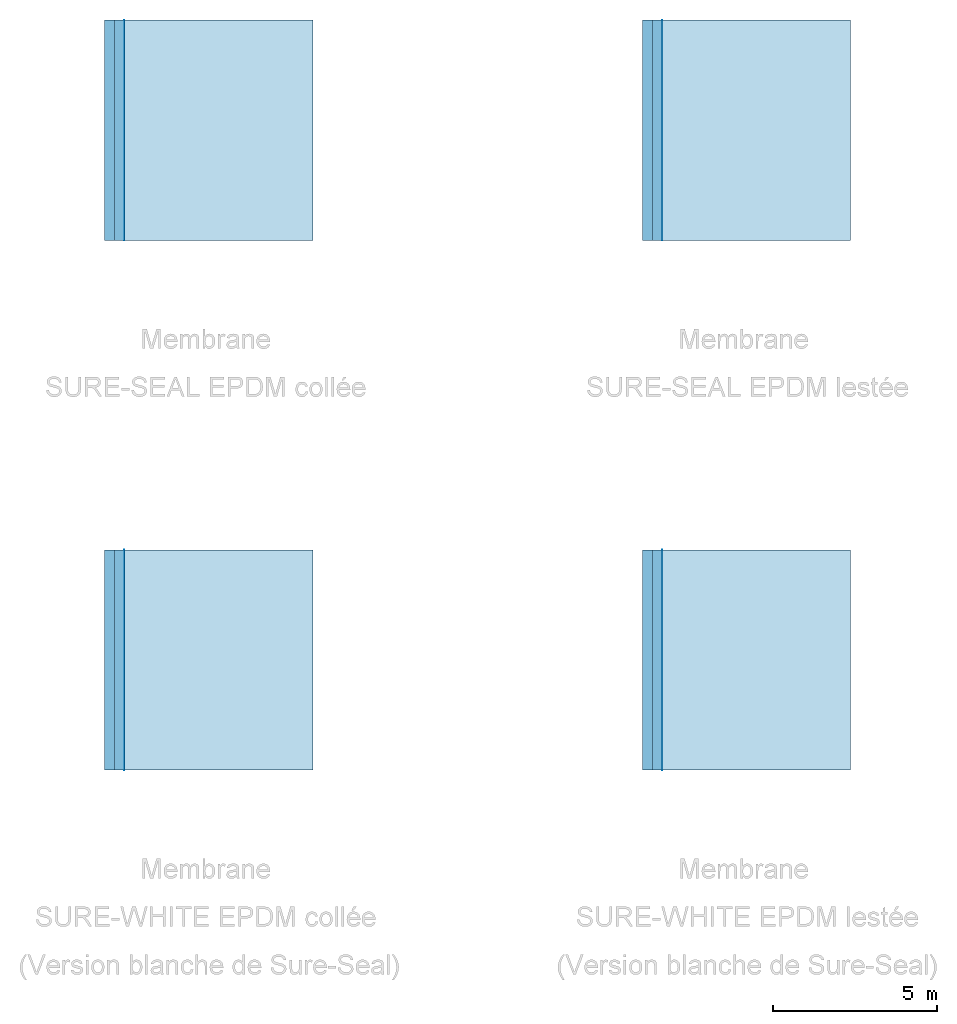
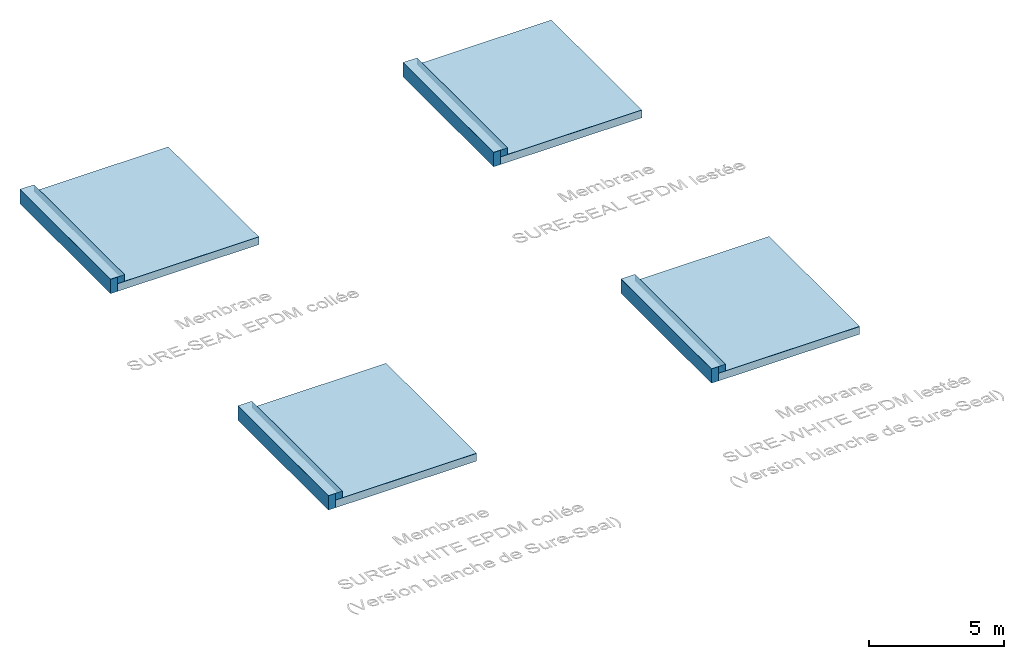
# One storey, incomplete: 12 slabs, 12 walls, 12 elements without a shape of their own.
"""IFC2X3 building model written with IfcOpenShell, lengths in millimetres."""

import ifcopenshell
import ifcopenshell.guid

model = None  # the IFC model being written
_history = None  # IfcOwnerHistory: only IFC2X3 demands one
_inside = {}  # id of a spatial element -> (the spatial element, [elements in it])
_under = {}  # id of a project, library or spatial element -> (it, [spatial elements below it])
_declared = {}  # id of a project -> (the project, [libraries it declares])
_typed = {}  # id of a type object -> (the type object, [elements of that type])
_made_of = {}  # id of a material, layer set ... -> (it, [elements and type objects made of it])


def new_model(schema):
    """Start an empty IFC model of exactly this schema.

    Asked for "IFC4X3", IfcOpenShell would pick the latest addendum, in which some entities
    have other attributes; the version numbers below select the first issue.
    IFC2X3 requires an IfcOwnerHistory on every rooted entity: one is made here for all.
    """
    global model, _history
    if schema == "IFC4X3":
        model = ifcopenshell.file(schema_version=(4, 3, 0, 0))
    else:
        model = ifcopenshell.file(schema=schema)
    _inside.clear()
    _under.clear()
    _declared.clear()
    _typed.clear()
    _made_of.clear()
    _history = None
    if model.schema == "IFC2X3":
        org = make("IfcOrganization", Name="unknown")
        user = make(
            "IfcPersonAndOrganization",
            ThePerson=make("IfcPerson", FamilyName="unknown"),
            TheOrganization=org,
        )
        app = make(
            "IfcApplication",
            ApplicationDeveloper=org,
            Version="unknown",
            ApplicationFullName="unknown",
            ApplicationIdentifier="unknown",
        )
        _history = make(
            "IfcOwnerHistory",
            OwningUser=user,
            OwningApplication=app,
            ChangeAction="ADDED",
            CreationDate=0,
        )
    return model


def make(cls, **values):
    """One entity of the class cls with the attributes given. An attribute that is None is left unset."""
    return model.create_entity(
        cls, **{name: value for name, value in values.items() if value is not None}
    )


def entity(cls, *values):
    """Any entity or typed value of the class cls, its attributes in the order of the schema. None: left unset."""
    e = model.create_entity(cls)
    for i, value in enumerate(values):
        if value is not None:
            e[i] = value
    return e


def rooted(cls, **values):
    """An entity with a GlobalId (a new one), such as an element, a storey or a relation."""
    return make(cls, GlobalId=ifcopenshell.guid.new(), OwnerHistory=_history, **values)


def si_unit(unit_type, name, prefix=None):
    """IfcSIUnit, for example si_unit("LENGTHUNIT", "METRE", prefix="MILLI")."""
    return make("IfcSIUnit", UnitType=unit_type, Prefix=prefix, Name=name)


def converted_unit(unit_type, name, factor, base, dimensions=None, offset=None):
    """IfcConversionBasedUnit, such as the inch: factor (a typed value) times the base unit."""
    return make(
        "IfcConversionBasedUnit"
        if offset is None
        else "IfcConversionBasedUnitWithOffset",
        ConversionOffset=offset,
        Dimensions=None
        if dimensions is None
        else entity("IfcDimensionalExponents", *dimensions),
        UnitType=unit_type,
        Name=name,
        ConversionFactor=make(
            "IfcMeasureWithUnit", ValueComponent=factor, UnitComponent=base
        ),
    )


def assignment(units):
    """IfcUnitAssignment: the units of a project."""
    return None if units is None else make("IfcUnitAssignment", Units=units)


def point(xyz):
    """IfcCartesianPoint."""
    return None if xyz is None else make("IfcCartesianPoint", Coordinates=xyz)


def direction(xyz):
    """IfcDirection."""
    return None if xyz is None else make("IfcDirection", DirectionRatios=xyz)


def frame(location, z_axis=None, x_axis=None):
    """IfcAxis2Placement3D, a coordinate frame: its origin and axes. An axis left out is left unset."""
    return make(
        "IfcAxis2Placement3D",
        Location=point(location),
        Axis=direction(z_axis),
        RefDirection=direction(x_axis),
    )


def frame_2d(location, x_axis=None):
    """IfcAxis2Placement2D, a coordinate frame in the plane: its origin and x axis."""
    return make(
        "IfcAxis2Placement2D", Location=point(location), RefDirection=direction(x_axis)
    )


def origin():
    """The frame at (0, 0, 0) with its axes left unset."""
    return frame((0.0, 0.0, 0.0))


def origin_2d_with_axis():
    """The frame at (0, 0) in the plane with the x axis (1, 0) written out."""
    return frame_2d((0.0, 0.0), x_axis=(1.0, 0.0))


def place(relative_to, where):
    """IfcLocalPlacement: puts the frame where relative to a parent placement (None: the world)."""
    return make(
        "IfcLocalPlacement", PlacementRelTo=relative_to, RelativePlacement=where
    )


def context(
    kind, dimensions, precision=None, world=None, true_north=None, identifier=None
):
    """IfcGeometricRepresentationContext, for example the 3D "Model" context."""
    return make(
        "IfcGeometricRepresentationContext",
        ContextIdentifier=identifier,
        ContextType=kind,
        CoordinateSpaceDimension=dimensions,
        Precision=precision,
        WorldCoordinateSystem=world,
        TrueNorth=true_north,
    )


def subcontext(parent, identifier, kind, view, scale=None):
    """IfcGeometricRepresentationSubContext, for example "Body" below "Model"."""
    return make(
        "IfcGeometricRepresentationSubContext",
        ContextIdentifier=identifier,
        ContextType=kind,
        ParentContext=parent,
        TargetScale=scale,
        TargetView=view,
    )


def project(units=None, contexts=None):
    """IfcProject with its units and contexts."""
    return rooted(
        "IfcProject",
        Name="project",
        RepresentationContexts=contexts,
        UnitsInContext=assignment(units),
    )


def spatial(cls, under=None, at=None, **own):
    """A site, building, storey or space (cls), placed at a placement, below another one or the project."""
    s = rooted(cls, ObjectPlacement=at, **own)
    if under is not None:
        _under.setdefault(under.id(), (under, []))[1].append(s)
    return s


def profile(cls, at=None, kind="AREA", **sizes):
    """A parametric profile (cls). Its sizes go by their IFC names, for example OverallWidth=200.0."""
    return make(cls, ProfileType=kind, Position=at, **sizes)


def rectangle(**sizes):
    """IfcRectangleProfileDef."""
    return profile("IfcRectangleProfileDef", **sizes)


def extrude(swept, where, along, depth):
    """IfcExtrudedAreaSolid: the profile swept, set in the frame where, extruded along a direction by depth."""
    return make(
        "IfcExtrudedAreaSolid",
        SweptArea=swept,
        Position=where,
        ExtrudedDirection=direction(along),
        Depth=depth,
    )


def clip(a, b, op="DIFFERENCE"):
    """IfcBooleanClippingResult: the solid a cut by the half space b."""
    return make(
        "IfcBooleanClippingResult", Operator=op, FirstOperand=a, SecondOperand=b
    )


def halfspace(plane, agree):
    """IfcHalfSpaceSolid: all space on one side of the plane z = 0 of the frame plane."""
    return make(
        "IfcHalfSpaceSolid",
        BaseSurface=make("IfcPlane", Position=plane),
        AgreementFlag=agree,
    )


def shape(context_of_items, identifier, shape_type, items):
    """IfcShapeRepresentation: the items that make up one representation, for example the "Body"."""
    return make(
        "IfcShapeRepresentation",
        ContextOfItems=context_of_items,
        RepresentationIdentifier=identifier,
        RepresentationType=shape_type,
        Items=items,
    )


def material(Name=None, Category=None):
    """IfcMaterial."""
    return make("IfcMaterial", Name=Name, Category=Category)


def layer(
    of_material, thickness, ventilated=None, Name=None, Category=None, Priority=None
):
    """IfcMaterialLayer: one layer of a wall or slab, of a material (None: an air gap)."""
    return make(
        "IfcMaterialLayer",
        Material=of_material,
        LayerThickness=thickness,
        IsVentilated=ventilated,
        Name=Name,
        Category=Category,
        Priority=Priority,
    )


def layer_set(layers, Name=None):
    """IfcMaterialLayerSet."""
    return make("IfcMaterialLayerSet", MaterialLayers=layers, LayerSetName=Name)


def layer_usage(for_layer_set, set_direction, sense, offset, extent=None):
    """IfcMaterialLayerSetUsage: how a layer set lies in its element."""
    return make(
        "IfcMaterialLayerSetUsage",
        ForLayerSet=for_layer_set,
        LayerSetDirection=set_direction,
        DirectionSense=sense,
        OffsetFromReferenceLine=offset,
        ReferenceExtent=extent,
    )


def made_of(thing, what):
    """Note that an element or type object is made of a material, layer set ...; save() writes the relation."""
    if what is not None:
        _made_of.setdefault(what.id(), (what, []))[1].append(thing)
    return thing


def type_object(cls, material=None, **own):
    """A type object (cls), such as IfcWallType, which elements share."""
    return made_of(rooted(cls, **own), material)


def element(
    cls,
    number,
    at=None,
    inside=None,
    cuts=None,
    type_object=None,
    material=None,
    context=None,
    identifier="Body",
    shape_type=None,
    held_by="IfcProductDefinitionShape",
    body=None,
    shapes=None,
    **own,
):
    """One element of the class cls, such as IfcWall. Its Tag is "e" and its number.

    at: its placement. inside: the storey or other place that contains it. cuts: it is an
    opening in that element (IfcRelVoidsElement). A single representation is given by context,
    identifier, shape_type and body (its items); several are given by shapes. held_by: the class
    of the entity that holds the representations. save() writes the other relations.
    """
    e = rooted(cls, Tag="e%d" % number, ObjectPlacement=at, **own)
    if body is not None:
        shapes = [shape(context, identifier, shape_type, body)]
    if shapes is not None:
        e.Representation = make(held_by, Representations=shapes)
    if inside is not None:
        _inside.setdefault(inside.id(), (inside, []))[1].append(e)
    if cuts is not None:
        rooted(
            "IfcRelVoidsElement", RelatingBuildingElement=cuts, RelatedOpeningElement=e
        )
    if type_object is not None:
        _typed.setdefault(type_object.id(), (type_object, []))[1].append(e)
    return made_of(e, material)


def aggregate(whole, parts):
    """IfcRelAggregates: a whole, such as a stair, and the parts it consists of."""
    return rooted("IfcRelAggregates", RelatingObject=whole, RelatedObjects=parts)


def save(model, path):
    """Write the relations noted so far, then the file.

    IfcRelAggregates (storeys below a building ...), IfcRelContainedInSpatialStructure (elements
    in a storey), IfcRelDefinesByType, IfcRelAssociatesMaterial and IfcRelDeclares: one each for
    every whole, place, type object, material and project.
    """
    for whole, parts in _under.values():
        aggregate(whole, parts)
    for where, things in _inside.values():
        rooted(
            "IfcRelContainedInSpatialStructure",
            RelatedElements=things,
            RelatingStructure=where,
        )
    for kind, things in _typed.values():
        rooted("IfcRelDefinesByType", RelatedObjects=things, RelatingType=kind)
    for what, things in _made_of.values():
        rooted("IfcRelAssociatesMaterial", RelatedObjects=things, RelatingMaterial=what)
    for by, libraries in _declared.values():
        rooted("IfcRelDeclares", RelatingContext=by, RelatedDefinitions=libraries)
    model.write(path)


model = new_model("IFC2X3")

# Units and contexts
model_context = context("Model", 3, precision=0.01, world=origin(), true_north=direction((6.123233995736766e-17, 1.0)))
body_context = subcontext(model_context, "Body", "Model", "MODEL_VIEW")
ifc_project = project(units=[si_unit("LENGTHUNIT", "METRE", prefix="MILLI"), converted_unit("PLANEANGLEUNIT", "DEGREE", entity("IfcPlaneAngleMeasure", 0.017453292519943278), si_unit("PLANEANGLEUNIT", "RADIAN"), dimensions=[0, 0, 0, 0, 0, 0, 0]), si_unit("AREAUNIT", "SQUARE_METRE")], contexts=[model_context])

# Site, building, storey
site_placement = place(None, origin())
site = spatial("IfcSite", under=ifc_project, at=site_placement, Name="Default", CompositionType="ELEMENT")
building_placement = place(site_placement, origin())
building = spatial("IfcBuilding", under=site, at=building_placement, CompositionType="ELEMENT")
storey_placement = place(building_placement, origin())
storey = spatial("IfcBuildingStorey", under=building, at=storey_placement, Name="Niveau 1", CompositionType="ELEMENT", Elevation=0.0)

# Roof, slab
ifc_material_1 = material(Name="Membrane Sure-Seal EPDM collée_Partie courante")
ifc_layer_1 = layer(ifc_material_1, 1.2)
ifc_material_2 = material(Name="Colle  de contact Spray fix ou Bonding adhesive")
ifc_layer_2 = layer(ifc_material_2, 1.1)
ifc_layer_set_1 = layer_set([ifc_layer_1, ifc_layer_2], Name="Toit de base:Membrane Sure-Seal EPDM Partie courante collée")
roof_1_placement = place(storey_placement, frame((6837.3553681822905, 5160.491318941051, 135.20000000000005)))
roof_1 = element("IfcRoof", 1, at=roof_1_placement, inside=storey, material=ifc_layer_set_1, Name="Toit de base:Membrane Sure-Seal EPDM Partie courante collée", ObjectType="Toit de base:Membrane Sure-Seal EPDM Partie courante collée", ShapeType="NOTDEFINED")
type_product_1 = type_object("IfcTypeProduct", Name="Toit de base:Membrane Sure-Seal EPDM Partie courante collée")
slab_1_placement = place(roof_1_placement, origin())
slab_1 = element("IfcSlab", 2, at=slab_1_placement, type_object=type_product_1, material=ifc_layer_set_1, Name="Toit de base:Membrane Sure-Seal EPDM Partie courante collée", ObjectType="Toit de base:Membrane Sure-Seal EPDM Partie courante collée", PredefinedType="ROOF", context=body_context, shape_type="SweptSolid", body=[
    extrude(rectangle(XDim=6714.46153846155, YDim=5746.950000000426, at=frame_2d((0.0, 0.0), x_axis=(0.0, 1.0))), frame((2873.475000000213, 3357.230769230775, 0.0)), (0.0, 0.0, 1.0), 2.3000000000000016),
])
aggregate(roof_1, [slab_1])

ifc_material_3 = material(Name="Film de protection polyester")
ifc_layer_3 = layer(ifc_material_3, 0.8)
ifc_material_4 = material(Name="Membrane Sure-Seal EPDM lestée_Partie courante")
ifc_layer_4 = layer(ifc_material_4, 1.5)
ifc_layer_set_2 = layer_set([ifc_layer_3, ifc_layer_4], Name="Toit de base:Membrane Sure-Seal EPDM Partie courante lestée")
roof_2_placement = place(storey_placement, frame((23232.555368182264, 5160.6254592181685, 135.20000000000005)))
roof_2 = element("IfcRoof", 3, at=roof_2_placement, inside=storey, material=ifc_layer_set_2, Name="Toit de base:Membrane Sure-Seal EPDM Partie courante lestée", ObjectType="Toit de base:Membrane Sure-Seal EPDM Partie courante lestée", ShapeType="NOTDEFINED")
type_product_2 = type_object("IfcTypeProduct", Name="Toit de base:Membrane Sure-Seal EPDM Partie courante lestée")
slab_2_placement = place(roof_2_placement, origin())
slab_2 = element("IfcSlab", 4, at=slab_2_placement, type_object=type_product_2, material=ifc_layer_set_2, Name="Toit de base:Membrane Sure-Seal EPDM Partie courante lestée", ObjectType="Toit de base:Membrane Sure-Seal EPDM Partie courante lestée", PredefinedType="ROOF", context=body_context, shape_type="SweptSolid", body=[
    extrude(rectangle(XDim=6714.46153846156, YDim=5746.95000000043, at=frame_2d((0.0, 4.547473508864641e-13), x_axis=(0.0, 1.0))), frame((2873.475000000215, 3357.2307692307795, 0.0)), (0.0, 0.0, 1.0), 2.3000000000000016),
])
aggregate(roof_2, [slab_2])

ifc_material_5 = material(Name="Membrane Sure-Seal EPDM collée_Acrotère/Relevé")
ifc_layer_5 = layer(ifc_material_5, 1.5)
ifc_layer_6 = layer(ifc_material_2, 1.1)
ifc_layer_set_3 = layer_set([ifc_layer_5, ifc_layer_6], Name="Toit de base:Membrane Sure-Seal EPDM_Acrotère")
roof_3_placement = place(storey_placement, frame((6237.330529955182, 5160.587790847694, 435.2)))
roof_3 = element("IfcRoof", 5, at=roof_3_placement, inside=storey, material=ifc_layer_set_3, Name="Toit de base:Membrane Sure-Seal EPDM_Acrotère", ObjectType="Toit de base:Membrane Sure-Seal EPDM_Acrotère", ShapeType="NOTDEFINED")
type_product_3 = type_object("IfcTypeProduct", Name="Toit de base:Membrane Sure-Seal EPDM_Acrotère")
slab_3_placement = place(roof_3_placement, origin())
slab_3 = element("IfcSlab", 6, at=slab_3_placement, type_object=type_product_3, material=ifc_layer_set_3, Name="Toit de base:Membrane Sure-Seal EPDM_Acrotère", ObjectType="Toit de base:Membrane Sure-Seal EPDM_Acrotère", PredefinedType="ROOF", context=body_context, shape_type="SweptSolid", body=[
    extrude(rectangle(XDim=603.3000000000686, YDim=6714.461538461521, at=frame_2d((0.0, 4.547473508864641e-13), x_axis=(1.0, 0.0))), frame((301.6500000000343, 3357.23076923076, 0.0)), (0.0, 0.0, 1.0), 2.600000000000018),
])
aggregate(roof_3, [slab_3])

roof_4_placement = place(storey_placement, frame((22632.497433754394, 5160.679768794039, 435.2)))
roof_4 = element("IfcRoof", 7, at=roof_4_placement, inside=storey, material=ifc_layer_set_3, Name="Toit de base:Membrane Sure-Seal EPDM_Acrotère", ObjectType="Toit de base:Membrane Sure-Seal EPDM_Acrotère", ShapeType="NOTDEFINED")
slab_4_placement = place(roof_4_placement, origin())
slab_4 = element("IfcSlab", 8, at=slab_4_placement, type_object=type_product_3, material=ifc_layer_set_3, Name="Toit de base:Membrane Sure-Seal EPDM_Acrotère", ObjectType="Toit de base:Membrane Sure-Seal EPDM_Acrotère", PredefinedType="ROOF", context=body_context, shape_type="SweptSolid", body=[
    extrude(rectangle(XDim=603.3000000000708, YDim=6714.461538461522, at=origin_2d_with_axis()), frame((301.6500000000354, 3357.230769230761, 0.0)), (0.0, 0.0, 1.0), 2.600000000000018),
])
aggregate(roof_4, [slab_4])

ifc_material_6 = material(Name="Isolation")
ifc_layer_7 = layer(ifc_material_6, 100.0)
ifc_material_7 = material(Name="Pare vapeur")
ifc_layer_8 = layer(ifc_material_7, 0.8)
ifc_material_8 = material(Name="Béton de pente")
ifc_layer_9 = layer(ifc_material_8, 50.0)
ifc_material_9 = material(Name="Structure porteuse")
ifc_layer_10 = layer(ifc_material_9, 200.0)
ifc_layer_set_4 = layer_set([ifc_layer_7, ifc_layer_8, ifc_layer_9, ifc_layer_10], Name="Toit de base:Toit-Support autorisé")
roof_5_placement = place(storey_placement, frame((6537.408916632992, 5161.058915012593, -215.60000000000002)))
roof_5 = element("IfcRoof", 9, at=roof_5_placement, inside=storey, material=ifc_layer_set_4, Name="Toit de base:Toit-Support autorisé", ObjectType="Toit de base:Toit-Support autorisé", ShapeType="NOTDEFINED")
type_product_4 = type_object("IfcTypeProduct", Name="Toit de base:Toit-Support autorisé")
slab_5_placement = place(roof_5_placement, origin())
slab_5 = element("IfcSlab", 10, at=slab_5_placement, type_object=type_product_4, material=ifc_layer_set_4, Name="Toit de base:Toit-Support autorisé", ObjectType="Toit de base:Toit-Support autorisé", PredefinedType="ROOF", context=body_context, shape_type="SweptSolid", body=[
    extrude(rectangle(XDim=6046.950000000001, YDim=6714.461538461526, at=frame_2d((-1.1368683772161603e-12, 0.0), x_axis=(1.0, 0.0))), frame((3023.4750000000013, 3357.230769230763, 0.0)), (0.0, 0.0, 1.0), 350.80000000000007),
])
aggregate(roof_5, [slab_5])

roof_6_placement = place(storey_placement, frame((22932.568981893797, 5160.81642946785, -215.60000000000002)))
roof_6 = element("IfcRoof", 11, at=roof_6_placement, inside=storey, material=ifc_layer_set_4, Name="Toit de base:Toit-Support autorisé", ObjectType="Toit de base:Toit-Support autorisé", ShapeType="NOTDEFINED")
slab_6_placement = place(roof_6_placement, origin())
slab_6 = element("IfcSlab", 12, at=slab_6_placement, type_object=type_product_4, material=ifc_layer_set_4, Name="Toit de base:Toit-Support autorisé", ObjectType="Toit de base:Toit-Support autorisé", PredefinedType="ROOF", context=body_context, shape_type="SweptSolid", body=[
    extrude(rectangle(XDim=6046.950000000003, YDim=6714.461538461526, at=frame_2d((2.2737367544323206e-12, 0.0), x_axis=(1.0, 0.0))), frame((3023.474999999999, 3357.230769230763, 0.0)), (0.0, 0.0, 1.0), 350.80000000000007),
])
aggregate(roof_6, [slab_6])

roof_7_placement = place(storey_placement, frame((6537.408916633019, -10989.0508670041, -215.60000000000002)))
roof_7 = element("IfcRoof", 13, at=roof_7_placement, inside=storey, material=ifc_layer_set_4, Name="Toit de base:Toit-Support autorisé", ObjectType="Toit de base:Toit-Support autorisé", ShapeType="NOTDEFINED")
slab_7_placement = place(roof_7_placement, origin())
slab_7 = element("IfcSlab", 14, at=slab_7_placement, type_object=type_product_4, material=ifc_layer_set_4, Name="Toit de base:Toit-Support autorisé", ObjectType="Toit de base:Toit-Support autorisé", PredefinedType="ROOF", context=body_context, shape_type="SweptSolid", body=[
    extrude(rectangle(XDim=6046.950000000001, YDim=6714.4615384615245, at=frame_2d((-1.1368683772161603e-12, 0.0), x_axis=(1.0, 0.0))), frame((3023.4750000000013, 3357.2307692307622, 0.0)), (0.0, 0.0, 1.0), 350.80000000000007),
])
aggregate(roof_7, [slab_7])

roof_8_placement = place(storey_placement, frame((22932.568981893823, -10989.293352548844, -215.60000000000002)))
roof_8 = element("IfcRoof", 15, at=roof_8_placement, inside=storey, material=ifc_layer_set_4, Name="Toit de base:Toit-Support autorisé", ObjectType="Toit de base:Toit-Support autorisé", ShapeType="NOTDEFINED")
slab_8_placement = place(roof_8_placement, origin())
slab_8 = element("IfcSlab", 16, at=slab_8_placement, type_object=type_product_4, material=ifc_layer_set_4, Name="Toit de base:Toit-Support autorisé", ObjectType="Toit de base:Toit-Support autorisé", PredefinedType="ROOF", context=body_context, shape_type="SweptSolid", body=[
    extrude(rectangle(XDim=6046.950000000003, YDim=6714.4615384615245, at=frame_2d((2.2737367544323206e-12, 0.0), x_axis=(1.0, 0.0))), frame((3023.474999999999, 3357.2307692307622, 0.0)), (0.0, 0.0, 1.0), 350.80000000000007),
])
aggregate(roof_8, [slab_8])

ifc_material_10 = material(Name="Membrane Sure-White EPDM collée_Partie courante")
ifc_layer_11 = layer(ifc_material_10, 1.5)
ifc_layer_12 = layer(ifc_material_2, 1.1)
ifc_layer_set_5 = layer_set([ifc_layer_11, ifc_layer_12], Name="Toit de base:Membrane Sure-White EPDM Partie courante collée")
roof_9_placement = place(storey_placement, frame((6837.355368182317, -10989.618463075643, 135.20000000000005)))
roof_9 = element("IfcRoof", 17, at=roof_9_placement, inside=storey, material=ifc_layer_set_5, Name="Toit de base:Membrane Sure-White EPDM Partie courante collée", ObjectType="Toit de base:Membrane Sure-White EPDM Partie courante collée", ShapeType="NOTDEFINED")
type_product_5 = type_object("IfcTypeProduct", Name="Toit de base:Membrane Sure-White EPDM Partie courante collée")
slab_9_placement = place(roof_9_placement, origin())
slab_9 = element("IfcSlab", 18, at=slab_9_placement, type_object=type_product_5, material=ifc_layer_set_5, Name="Toit de base:Membrane Sure-White EPDM Partie courante collée", ObjectType="Toit de base:Membrane Sure-White EPDM Partie courante collée", PredefinedType="ROOF", context=body_context, shape_type="SweptSolid", body=[
    extrude(rectangle(XDim=6714.46153846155, YDim=5746.950000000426, at=frame_2d((0.0, 0.0), x_axis=(0.0, 1.0))), frame((2873.475000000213, 3357.230769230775, 0.0)), (0.0, 0.0, 1.0), 2.600000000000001),
])
aggregate(roof_9, [slab_9])

ifc_layer_13 = layer(ifc_material_3, 0.8)
ifc_material_11 = material(Name="Membrane Sure-White EPDM lestée_Partie courante")
ifc_layer_14 = layer(ifc_material_11, 1.5)
ifc_layer_set_6 = layer_set([ifc_layer_13, ifc_layer_14], Name="Toit de base:Membrane Sure-White EPDM Partie courante lestée")
roof_10_placement = place(storey_placement, frame((23232.55536818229, -10989.484322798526, 135.20000000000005)))
roof_10 = element("IfcRoof", 19, at=roof_10_placement, inside=storey, material=ifc_layer_set_6, Name="Toit de base:Membrane Sure-White EPDM Partie courante lestée", ObjectType="Toit de base:Membrane Sure-White EPDM Partie courante lestée", ShapeType="NOTDEFINED")
type_product_6 = type_object("IfcTypeProduct", Name="Toit de base:Membrane Sure-White EPDM Partie courante lestée")
slab_10_placement = place(roof_10_placement, origin())
slab_10 = element("IfcSlab", 20, at=slab_10_placement, type_object=type_product_6, material=ifc_layer_set_6, Name="Toit de base:Membrane Sure-White EPDM Partie courante lestée", ObjectType="Toit de base:Membrane Sure-White EPDM Partie courante lestée", PredefinedType="ROOF", context=body_context, shape_type="SweptSolid", body=[
    extrude(rectangle(XDim=6714.461538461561, YDim=5746.95000000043, at=frame_2d((0.0, 0.0), x_axis=(0.0, 1.0))), frame((2873.475000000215, 3357.2307692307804, 0.0)), (0.0, 0.0, 1.0), 2.3000000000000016),
])
aggregate(roof_10, [slab_10])

ifc_material_12 = material(Name="Membrane Sure-White EPDM collée_Acrotère/Relevé")
ifc_layer_15 = layer(ifc_material_12, 1.5)
ifc_layer_16 = layer(ifc_material_2, 1.1)
ifc_layer_set_7 = layer_set([ifc_layer_15, ifc_layer_16], Name="Toit de base:Membrane Sure-White EPDM_Acrotère")
roof_11_placement = place(storey_placement, frame((6237.3305299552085, -10989.521991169, 435.2)))
roof_11 = element("IfcRoof", 21, at=roof_11_placement, inside=storey, material=ifc_layer_set_7, Name="Toit de base:Membrane Sure-White EPDM_Acrotère", ObjectType="Toit de base:Membrane Sure-White EPDM_Acrotère", ShapeType="NOTDEFINED")
type_product_7 = type_object("IfcTypeProduct", Name="Toit de base:Membrane Sure-White EPDM_Acrotère")
slab_11_placement = place(roof_11_placement, origin())
slab_11 = element("IfcSlab", 22, at=slab_11_placement, type_object=type_product_7, material=ifc_layer_set_7, Name="Toit de base:Membrane Sure-White EPDM_Acrotère", ObjectType="Toit de base:Membrane Sure-White EPDM_Acrotère", PredefinedType="ROOF", context=body_context, shape_type="SweptSolid", body=[
    extrude(rectangle(XDim=603.3000000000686, YDim=6714.461538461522, at=origin_2d_with_axis()), frame((301.6500000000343, 3357.230769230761, 0.0)), (0.0, 0.0, 1.0), 2.600000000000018),
])
aggregate(roof_11, [slab_11])

roof_12_placement = place(storey_placement, frame((22632.49743375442, -10989.430013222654, 435.2)))
roof_12 = element("IfcRoof", 23, at=roof_12_placement, inside=storey, material=ifc_layer_set_7, Name="Toit de base:Membrane Sure-White EPDM_Acrotère", ObjectType="Toit de base:Membrane Sure-White EPDM_Acrotère", ShapeType="NOTDEFINED")
slab_12_placement = place(roof_12_placement, origin())
slab_12 = element("IfcSlab", 24, at=slab_12_placement, type_object=type_product_7, material=ifc_layer_set_7, Name="Toit de base:Membrane Sure-White EPDM_Acrotère", ObjectType="Toit de base:Membrane Sure-White EPDM_Acrotère", PredefinedType="ROOF", context=body_context, shape_type="SweptSolid", body=[
    extrude(rectangle(XDim=603.3000000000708, YDim=6714.461538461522, at=origin_2d_with_axis()), frame((301.6500000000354, 3357.230769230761, 0.0)), (0.0, 0.0, 1.0), 2.600000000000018),
])
aggregate(roof_12, [slab_12])

# Walls
ifc_layer_17 = layer(ifc_material_6, 100.0)
ifc_material_13 = material(Name="Maçonnerie ascendante")
ifc_layer_18 = layer(ifc_material_13, 200.0)
ifc_layer_set_8 = layer_set([ifc_layer_17, ifc_layer_18], Name="Mur de base:Mur 1")
ifc_layer_usage_1 = layer_usage(ifc_layer_set_8, "AXIS2", "NEGATIVE", 150.00000000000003)
wall_type_1 = type_object("IfcWallType", Name="Mur de base:Mur 1", PredefinedType="STANDARD", material=ifc_layer_set_8)
wall_1_placement = place(storey_placement, frame((6387.355368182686, 11874.952857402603, -215.6), z_axis=(0.0, 0.0, 1.0), x_axis=(0.0, -1.0, 0.0)))
element("IfcWallStandardCase", 25, at=wall_1_placement, inside=storey, type_object=wall_type_1, material=ifc_layer_usage_1, Name="Mur de base:Mur 1", ObjectType="Mur de base:Mur 1", context=body_context, shape_type="SweptSolid", body=[
    extrude(rectangle(XDim=6714.461538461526, YDim=300.0000000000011, at=frame_2d((3357.230769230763, 0.0), x_axis=(-1.0, 0.0))), origin(), (0.0, 0.0, 1.0), 650.8000000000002),
])
ifc_layer_usage_2 = layer_usage(ifc_layer_set_8, "AXIS2", "NEGATIVE", 150.00000000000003)
wall_2_placement = place(storey_placement, frame((6687.355368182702, 11874.952857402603, 135.20000000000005), z_axis=(0.0, 0.0, 1.0), x_axis=(0.0, -1.0, 0.0)))
element("IfcWallStandardCase", 26, at=wall_2_placement, inside=storey, type_object=wall_type_1, material=ifc_layer_usage_2, Name="Mur de base:Mur 1", ObjectType="Mur de base:Mur 1", context=body_context, shape_type="Clipping", body=[
    clip(extrude(rectangle(XDim=6714.461538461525, YDim=300.0000000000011, at=frame_2d((3357.2307692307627, 0.0), x_axis=(-1.0, 0.0))), origin(), (0.0, 0.0, 1.0), 300.0), halfspace(frame((6714.461538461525, -150.0, 0.0), z_axis=(0.0, 0.0, -1.0), x_axis=(0.0, 1.0, 0.0)), False)),
])
ifc_layer_usage_3 = layer_usage(ifc_layer_set_8, "AXIS2", "NEGATIVE", 150.00000000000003)
wall_3_placement = place(storey_placement, frame((22782.555368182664, 11875.08699767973, -215.6), z_axis=(0.0, 0.0, 1.0), x_axis=(0.0, -1.0, 0.0)))
element("IfcWallStandardCase", 27, at=wall_3_placement, inside=storey, type_object=wall_type_1, material=ifc_layer_usage_3, Name="Mur de base:Mur 1", ObjectType="Mur de base:Mur 1", context=body_context, shape_type="SweptSolid", body=[
    extrude(rectangle(XDim=6714.461538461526, YDim=300.00000000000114, at=frame_2d((3357.230769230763, -1.6200374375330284e-12), x_axis=(-1.0, 0.0))), origin(), (0.0, 0.0, 1.0), 650.8000000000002),
])
ifc_layer_usage_4 = layer_usage(ifc_layer_set_8, "AXIS2", "NEGATIVE", 150.00000000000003)
wall_4_placement = place(storey_placement, frame((23082.55536818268, 11875.086997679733, 135.20000000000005), z_axis=(0.0, 0.0, 1.0), x_axis=(0.0, -1.0, 0.0)))
element("IfcWallStandardCase", 28, at=wall_4_placement, inside=storey, type_object=wall_type_1, material=ifc_layer_usage_4, Name="Mur de base:Mur 1", ObjectType="Mur de base:Mur 1", context=body_context, shape_type="Clipping", body=[
    clip(extrude(rectangle(XDim=6714.461538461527, YDim=300.0000000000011, at=frame_2d((3357.2307692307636, 5.400124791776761e-13), x_axis=(-1.0, 0.0))), origin(), (0.0, 0.0, 1.0), 300.0), halfspace(frame((6714.461538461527, -150.0, 0.0), z_axis=(0.0, 0.0, -1.0), x_axis=(0.0, 1.0, 0.0)), False)),
])
ifc_layer_usage_5 = layer_usage(ifc_layer_set_8, "AXIS2", "NEGATIVE", 150.00000000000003)
wall_5_placement = place(storey_placement, frame((6387.3553681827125, -4275.15692461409, -215.6), z_axis=(0.0, 0.0, 1.0), x_axis=(0.0, -1.0, 0.0)))
element("IfcWallStandardCase", 29, at=wall_5_placement, inside=storey, type_object=wall_type_1, material=ifc_layer_usage_5, Name="Mur de base:Mur 1", ObjectType="Mur de base:Mur 1", context=body_context, shape_type="SweptSolid", body=[
    extrude(rectangle(XDim=6714.461538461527, YDim=300.0000000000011, at=frame_2d((3357.2307692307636, 0.0), x_axis=(-1.0, 0.0))), origin(), (0.0, 0.0, 1.0), 650.8000000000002),
])
ifc_layer_usage_6 = layer_usage(ifc_layer_set_8, "AXIS2", "NEGATIVE", 150.00000000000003)
wall_6_placement = place(storey_placement, frame((6687.355368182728, -4275.15692461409, 135.20000000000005), z_axis=(0.0, 0.0, 1.0), x_axis=(0.0, -1.0, 0.0)))
element("IfcWallStandardCase", 30, at=wall_6_placement, inside=storey, type_object=wall_type_1, material=ifc_layer_usage_6, Name="Mur de base:Mur 1", ObjectType="Mur de base:Mur 1", context=body_context, shape_type="Clipping", body=[
    clip(extrude(rectangle(XDim=6714.461538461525, YDim=300.0000000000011, at=frame_2d((3357.2307692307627, 0.0), x_axis=(-1.0, 0.0))), origin(), (0.0, 0.0, 1.0), 300.0), halfspace(frame((6714.461538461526, -150.0, 0.0), z_axis=(0.0, 0.0, -1.0), x_axis=(0.0, 1.0, 0.0)), False)),
])
ifc_layer_usage_7 = layer_usage(ifc_layer_set_8, "AXIS2", "NEGATIVE", 150.00000000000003)
wall_7_placement = place(storey_placement, frame((22782.55536818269, -4275.022784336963, -215.6), z_axis=(0.0, 0.0, 1.0), x_axis=(0.0, -1.0, 0.0)))
element("IfcWallStandardCase", 31, at=wall_7_placement, inside=storey, type_object=wall_type_1, material=ifc_layer_usage_7, Name="Mur de base:Mur 1", ObjectType="Mur de base:Mur 1", context=body_context, shape_type="SweptSolid", body=[
    extrude(rectangle(XDim=6714.461538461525, YDim=300.00000000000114, at=frame_2d((3357.2307692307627, -1.6200374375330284e-12), x_axis=(-1.0, 0.0))), origin(), (0.0, 0.0, 1.0), 650.8000000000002),
])
ifc_layer_usage_8 = layer_usage(ifc_layer_set_8, "AXIS2", "NEGATIVE", 150.00000000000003)
wall_8_placement = place(storey_placement, frame((23082.555368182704, -4275.022784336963, 135.20000000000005), z_axis=(0.0, 0.0, 1.0), x_axis=(0.0, -1.0, 0.0)))
element("IfcWallStandardCase", 32, at=wall_8_placement, inside=storey, type_object=wall_type_1, material=ifc_layer_usage_8, Name="Mur de base:Mur 1", ObjectType="Mur de base:Mur 1", context=body_context, shape_type="Clipping", body=[
    clip(extrude(rectangle(XDim=6714.461538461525, YDim=300.0000000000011, at=frame_2d((3357.2307692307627, 5.400124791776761e-13), x_axis=(-1.0, 0.0))), origin(), (0.0, 0.0, 1.0), 300.0), halfspace(frame((6714.461538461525, -150.0, 0.0), z_axis=(0.0, 0.0, -1.0), x_axis=(0.0, 1.0, 0.0)), False)),
])
ifc_layer_19 = layer(ifc_material_5, 1.2)
ifc_layer_20 = layer(ifc_material_2, 1.1)
ifc_layer_set_9 = layer_set([ifc_layer_19, ifc_layer_20], Name="Mur de base:Membrane Sure-Seal EPDM Relevé collé")
ifc_layer_usage_9 = layer_usage(ifc_layer_set_9, "AXIS2", "NEGATIVE", 1.1500000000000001)
wall_type_2 = type_object("IfcWallType", Name="Mur de base:Membrane Sure-Seal EPDM Relevé collé", PredefinedType="STANDARD", material=ifc_layer_set_9)
wall_9_placement = place(storey_placement, frame((6839.005368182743, 11874.9528574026, 138.50000000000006), z_axis=(0.0, 0.0, 1.0), x_axis=(0.0, -1.0, 0.0)))
element("IfcWallStandardCase", 33, at=wall_9_placement, inside=storey, type_object=wall_type_2, material=ifc_layer_usage_9, Name="Mur de base:Membrane Sure-Seal EPDM Relevé collé", ObjectType="Mur de base:Membrane Sure-Seal EPDM Relevé collé", context=body_context, shape_type="SweptSolid", body=[
    extrude(rectangle(XDim=6714.461538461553, YDim=2.299999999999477, at=frame_2d((3357.2307692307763, 1.887379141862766e-14), x_axis=(-1.0, 0.0))), origin(), (0.0, 0.0, 1.0), 296.7000000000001),
])
ifc_layer_usage_10 = layer_usage(ifc_layer_set_9, "AXIS2", "NEGATIVE", 1.1500000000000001)
wall_10_placement = place(storey_placement, frame((23234.205368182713, 11875.08699767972, 138.20000000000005), z_axis=(0.0, 0.0, 1.0), x_axis=(0.0, -1.0, 0.0)))
element("IfcWallStandardCase", 34, at=wall_10_placement, inside=storey, type_object=wall_type_2, material=ifc_layer_usage_10, Name="Mur de base:Membrane Sure-Seal EPDM Relevé collé", ObjectType="Mur de base:Membrane Sure-Seal EPDM Relevé collé", context=body_context, shape_type="SweptSolid", body=[
    extrude(rectangle(XDim=6714.461538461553, YDim=2.299999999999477, at=frame_2d((3357.2307692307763, 1.887379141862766e-14), x_axis=(-1.0, 0.0))), origin(), (0.0, 0.0, 1.0), 297.0000000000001),
])
ifc_layer_21 = layer(ifc_material_12, 1.5)
ifc_layer_22 = layer(ifc_material_2, 1.1)
ifc_layer_set_10 = layer_set([ifc_layer_21, ifc_layer_22], Name="Mur de base:Membrane Sure-White EPDM collée-Relevé")
ifc_layer_usage_11 = layer_usage(ifc_layer_set_10, "AXIS2", "NEGATIVE", 1.3)
wall_type_3 = type_object("IfcWallType", Name="Mur de base:Membrane Sure-White EPDM collée-Relevé", PredefinedType="STANDARD", material=ifc_layer_set_10)
wall_11_placement = place(storey_placement, frame((6839.005368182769, -4275.1569246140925, 138.50000000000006), z_axis=(0.0, 0.0, 1.0), x_axis=(0.0, -1.0, 0.0)))
element("IfcWallStandardCase", 35, at=wall_11_placement, inside=storey, type_object=wall_type_3, material=ifc_layer_usage_11, Name="Mur de base:Membrane Sure-White EPDM collée-Relevé", ObjectType="Mur de base:Membrane Sure-White EPDM collée-Relevé", context=body_context, shape_type="SweptSolid", body=[
    extrude(rectangle(XDim=6714.461538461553, YDim=2.599999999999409, at=frame_2d((3357.2307692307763, 1.887379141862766e-14), x_axis=(-1.0, 0.0))), origin(), (0.0, 0.0, 1.0), 296.7000000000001),
])
ifc_layer_usage_12 = layer_usage(ifc_layer_set_10, "AXIS2", "NEGATIVE", 1.3)
wall_12_placement = place(storey_placement, frame((23234.20536818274, -4275.022784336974, 138.20000000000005), z_axis=(0.0, 0.0, 1.0), x_axis=(0.0, -1.0, 0.0)))
element("IfcWallStandardCase", 36, at=wall_12_placement, inside=storey, type_object=wall_type_3, material=ifc_layer_usage_12, Name="Mur de base:Membrane Sure-White EPDM collée-Relevé", ObjectType="Mur de base:Membrane Sure-White EPDM collée-Relevé", context=body_context, shape_type="SweptSolid", body=[
    extrude(rectangle(XDim=6714.461538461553, YDim=2.599999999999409, at=frame_2d((3357.2307692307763, 1.887379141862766e-14), x_axis=(-1.0, 0.0))), origin(), (0.0, 0.0, 1.0), 297.0000000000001),
])

save(model, "model.ifc")
